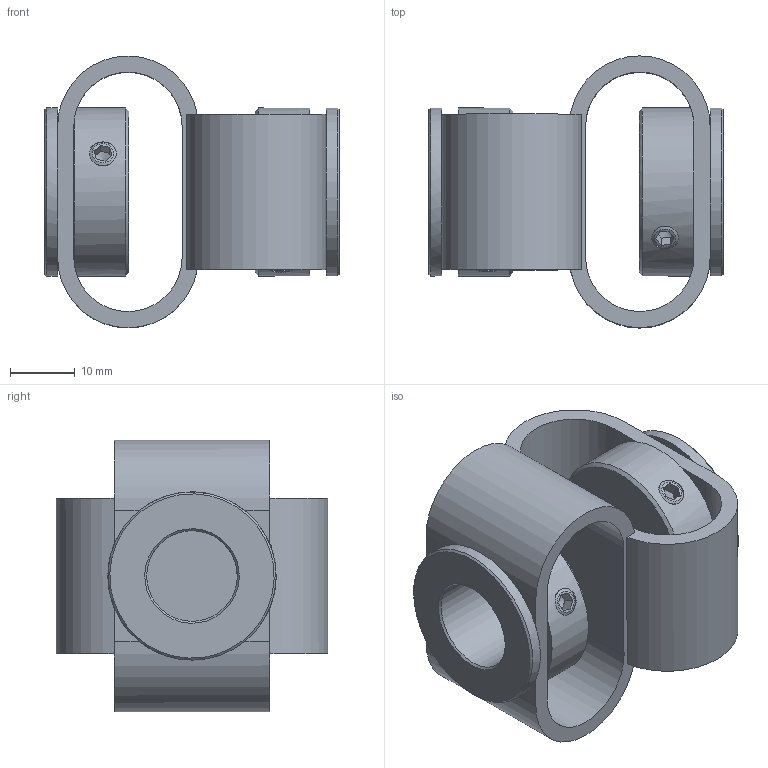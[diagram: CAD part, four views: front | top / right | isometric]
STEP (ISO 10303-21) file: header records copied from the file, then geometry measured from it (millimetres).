
FILE_DESCRIPTION(/* description */ (''),/* implementation_level */ '2;1');
FILE_NAME(/* name */ 'E:\ABP_bauteile\Doppelschlaufenkupplung\DKPS_4848\Doppelschlaufenkupplung_DKPS_4848_06_14.stp',/* time_stamp */ '2015-03-13T13:55:09+01:00',/* author */ ('Rob'),/* organization */ (''),/* preprocessor_version */ 'ST-DEVELOPER v15.6',/* originating_system */ 'Autodesk Inventor 2015',/* authorisation */ '');
FILE_SCHEMA (('CONFIG_CONTROL_DESIGN'));
Length unit declared in the file: millimetre
Products named in the file (1): Bauteil14
Bounding box: 45.55 x 42.03 x 42.03 mm (x, y, z)
Volume: 19353.2 mm3; surface area: 13391.3 mm2
Topology: 1 solids, 2 shells, 138 faces, 317 edges, 190 vertices
Faces by surface type: plane 83, cone 28, cylinder 27
Full cylindrical faces by diameter (mm): 4.134 x8, 6 x1, 14 x1, 16.5 x2, 18 x3, 26 x4
Entity records: 3670 total; most frequent: CARTESIAN_POINT 873, DIRECTION 604, ORIENTED_EDGE 482, AXIS2_PLACEMENT_3D 242, EDGE_CURVE 241, EDGE_LOOP 202, VERTEX_POINT 157, FACE_OUTER_BOUND 138
